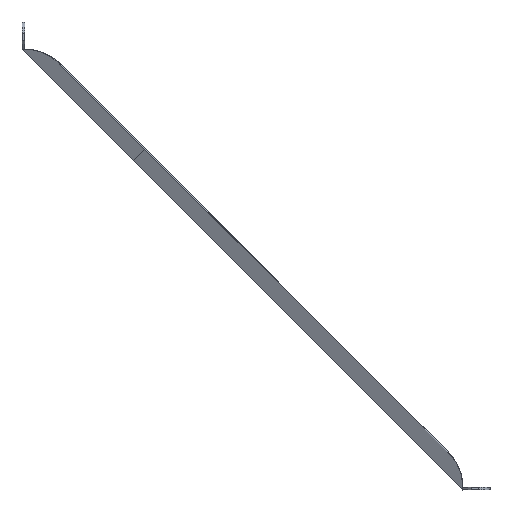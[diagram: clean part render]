
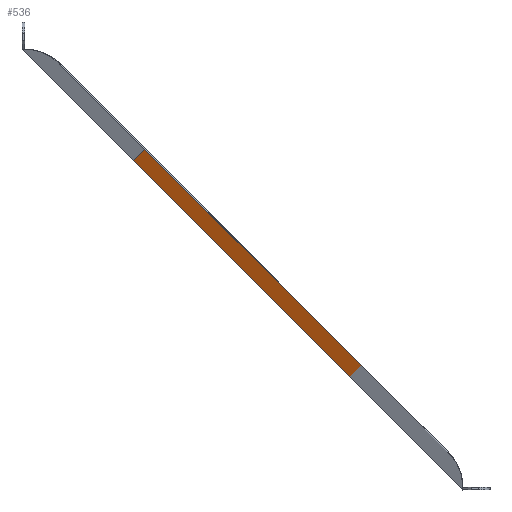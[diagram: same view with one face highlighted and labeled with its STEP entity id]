
A CAD part, front view. The second image highlights one B-rep face of the part: STEP entity #536.
In plain terms, the highlighted planar face has unit normal (-0.272, -0.923, -0.272).
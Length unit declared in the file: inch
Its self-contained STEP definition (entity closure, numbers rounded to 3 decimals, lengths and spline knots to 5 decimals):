
#380=EDGE_CURVE('',#969,#892,#970,.T.);
#536=ADVANCED_FACE('',(#1192),#1193,.T.);
#892=VERTEX_POINT('',#1667);
#969=VERTEX_POINT('',#1782);
#970=LINE('',#1783,#1784);
#1192=FACE_OUTER_BOUND('',#2412,.T.);
#1193=PLANE('',#2413);
#1667=CARTESIAN_POINT('',(-7.02499,0.40872,6.55276));
#1782=CARTESIAN_POINT('',(-6.38256,0.02943,7.19519));
#1783=CARTESIAN_POINT('',(-7.02385,0.40805,6.5539));
#1784=VECTOR('',#3179,1.0);
#2412=EDGE_LOOP('',(#3436,#3437,#3438,#3439));
#2413=AXIS2_PLACEMENT_3D('',#3440,#3441,#3442);
#3179=DIRECTION('',(-0.653,0.385,-0.653));
#3436=ORIENTED_EDGE('',*,*,#3785,.T.);
#3437=ORIENTED_EDGE('',*,*,#3730,.F.);
#3438=ORIENTED_EDGE('',*,*,#380,.T.);
#3439=ORIENTED_EDGE('',*,*,#3767,.T.);
#3440=CARTESIAN_POINT('',(-6.70377,0.21907,6.87398));
#3441=DIRECTION('',(-0.272,-0.923,-0.272));
#3442=DIRECTION('',(-0.653,0.385,-0.653));
#3730=EDGE_CURVE('',#969,#3818,#3823,.T.);
#3767=EDGE_CURVE('',#892,#3864,#3866,.T.);
#3785=EDGE_CURVE('',#3864,#3818,#3884,.T.);
#3818=VERTEX_POINT('',#3917);
#3823=LINE('',#3925,#3926);
#3864=VERTEX_POINT('',#3977);
#3866=LINE('',#3980,#3981);
#3884=LINE('',#3999,#4000);
#3917=CARTESIAN_POINT('',(5.7942,0.02943,-4.98159));
#3925=CARTESIAN_POINT('',(-6.38256,0.02943,7.19519));
#3926=VECTOR('',#4036,1.0);
#3977=CARTESIAN_POINT('',(5.15178,0.40872,-5.62402));
#3980=CARTESIAN_POINT('',(-7.02499,0.40872,6.55276));
#3981=VECTOR('',#4048,1.0);
#3999=CARTESIAN_POINT('',(5.15291,0.40805,-5.62288));
#4000=VECTOR('',#4049,1.0);
#4036=DIRECTION('',(0.707,0.,-0.707));
#4048=DIRECTION('',(0.707,0.,-0.707));
#4049=DIRECTION('',(0.653,-0.385,0.653));
